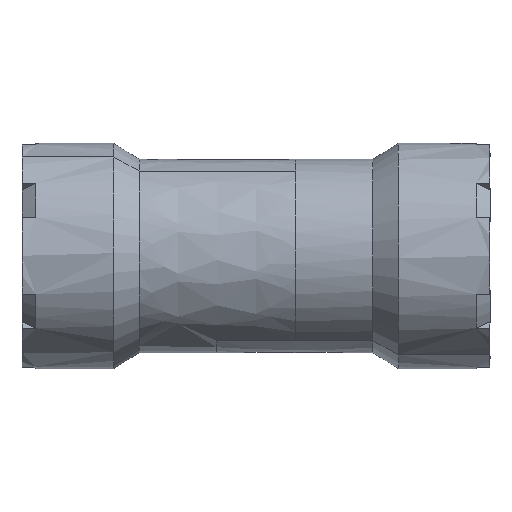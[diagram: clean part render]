
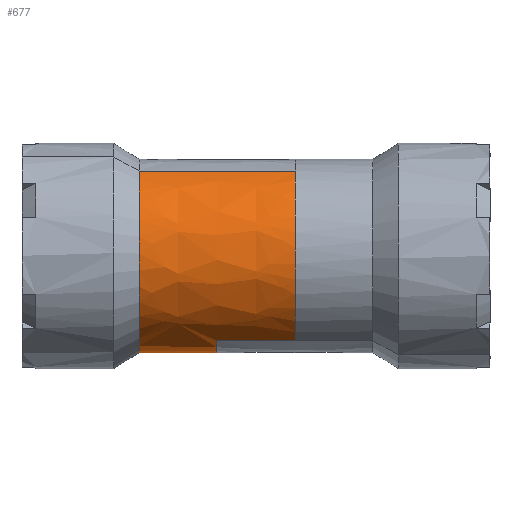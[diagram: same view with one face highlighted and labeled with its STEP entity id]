
A CAD part, top view. The second image highlights one B-rep face of the part: STEP entity #677.
In plain terms, the highlighted free-form (B-spline) face has degree [1, 2] with [2, 5] control points.
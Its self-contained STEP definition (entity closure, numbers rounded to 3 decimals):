
#677=ADVANCED_FACE('',(#1865),#1866,.T.);
#1187=VERTEX_POINT('',#2431);
#1189=VERTEX_POINT('',#2433);
#1191=EDGE_CURVE('',#1187,#1189,#2435,.T.);
#1211=VERTEX_POINT('',#2455);
#1213=EDGE_CURVE('',#1211,#1187,#2457,.T.);
#1215=VERTEX_POINT('',#2459);
#1217=EDGE_CURVE('',#1215,#1189,#2461,.T.);
#1219=VERTEX_POINT('',#2463);
#1221=EDGE_CURVE('',#1215,#1219,#2465,.T.);
#1223=VERTEX_POINT('',#2467);
#1225=EDGE_CURVE('',#1219,#1223,#2469,.T.);
#1227=EDGE_CURVE('',#1211,#1223,#2471,.T.);
#1865=FACE_OUTER_BOUND('',#3456,.T.);
#1866=(B_SPLINE_SURFACE(1,2,((#3458,#3459,#3460,#3461,#3462),(#3463,#3464,#3465,#3466,#3467)),.UNSPECIFIED.,.F.,.F.,.F.)B_SPLINE_SURFACE_WITH_KNOTS((2,2),(3,2,3),(0.0,1.0),(0.0,0.5,1.0),.UNSPECIFIED.)RATIONAL_B_SPLINE_SURFACE(((1.0,0.707,1.0,0.707,1.0),(1.0,0.707,1.0,0.707,1.0)))BOUNDED_SURFACE()REPRESENTATION_ITEM('')GEOMETRIC_REPRESENTATION_ITEM()SURFACE());
#2431=CARTESIAN_POINT('',(-17.089,12.418,6.784));
#2433=CARTESIAN_POINT('',(-17.089,-12.418,-6.784));
#2435=CIRCLE('',#4768,14.15);
#2455=CARTESIAN_POINT('',(5.75,12.418,6.784));
#2457=LINE('',#4818,#4819);
#2459=CARTESIAN_POINT('',(-5.75,-12.418,-6.784));
#2461=LINE('',#4824,#4825);
#2463=CARTESIAN_POINT('',(-5.75,-12.418,6.784));
#2465=CIRCLE('',#4830,14.15);
#2467=CARTESIAN_POINT('',(5.75,-12.418,6.784));
#2469=LINE('',#4835,#4836);
#2471=CIRCLE('',#4839,14.15);
#3456=EDGE_LOOP('',(#5908,#5909,#5910,#5911,#5912,#5913));
#3458=CARTESIAN_POINT('',(5.75,12.418,6.784));
#3459=CARTESIAN_POINT('',(5.75,5.634,19.202));
#3460=CARTESIAN_POINT('',(5.75,-6.784,12.418));
#3461=CARTESIAN_POINT('',(5.75,-19.202,5.634));
#3462=CARTESIAN_POINT('',(5.75,-12.418,-6.784));
#3463=CARTESIAN_POINT('',(-17.089,12.418,6.784));
#3464=CARTESIAN_POINT('',(-17.089,5.634,19.202));
#3465=CARTESIAN_POINT('',(-17.089,-6.784,12.418));
#3466=CARTESIAN_POINT('',(-17.089,-19.202,5.634));
#3467=CARTESIAN_POINT('',(-17.089,-12.418,-6.784));
#4768=AXIS2_PLACEMENT_3D('',#6478,#6479,#6480);
#4818=CARTESIAN_POINT('',(5.75,12.418,6.784));
#4819=VECTOR('',#6492,1.0);
#4824=CARTESIAN_POINT('',(-5.75,-12.418,-6.784));
#4825=VECTOR('',#6493,1.0);
#4830=AXIS2_PLACEMENT_3D('',#6494,#6495,#6496);
#4835=CARTESIAN_POINT('',(-5.75,-12.418,6.784));
#4836=VECTOR('',#6497,1.0);
#4839=AXIS2_PLACEMENT_3D('',#6498,#6499,#6500);
#5908=ORIENTED_EDGE('',*,*,#1213,.T.);
#5909=ORIENTED_EDGE('',*,*,#1191,.T.);
#5910=ORIENTED_EDGE('',*,*,#1217,.F.);
#5911=ORIENTED_EDGE('',*,*,#1221,.T.);
#5912=ORIENTED_EDGE('',*,*,#1225,.T.);
#5913=ORIENTED_EDGE('',*,*,#1227,.F.);
#6478=CARTESIAN_POINT('',(-17.089,0.,0.));
#6479=DIRECTION('',(1.0,0.0,-0.0));
#6480=DIRECTION('',(0.0,0.878,0.479));
#6492=DIRECTION('',(-1.0,0.0,0.0));
#6493=DIRECTION('',(-1.0,0.0,0.0));
#6494=CARTESIAN_POINT('',(-5.75,0.,0.));
#6495=DIRECTION('',(-1.0,0.,0.));
#6496=DIRECTION('',(0.,-0.878,-0.479));
#6497=DIRECTION('',(1.0,0.0,0.0));
#6498=CARTESIAN_POINT('',(5.75,0.,0.));
#6499=DIRECTION('',(1.0,0.,0.));
#6500=DIRECTION('',(0.,0.878,0.479));
